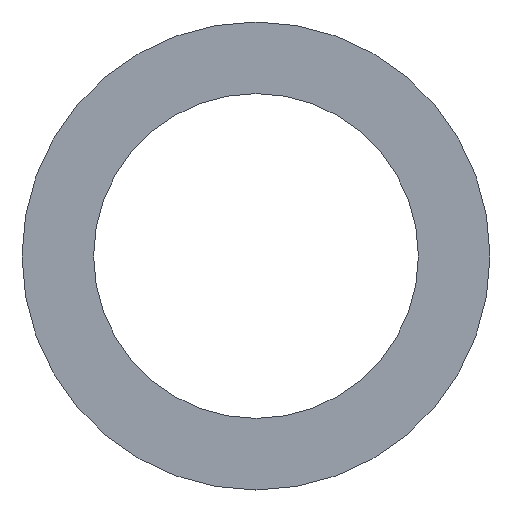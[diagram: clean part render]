
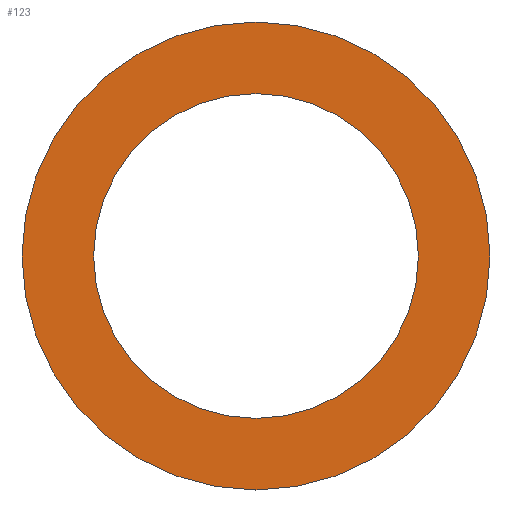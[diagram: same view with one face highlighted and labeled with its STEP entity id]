
A CAD part, front view. The second image highlights one B-rep face of the part: STEP entity #123.
In plain terms, the highlighted planar face has unit normal (0, -1, 0).
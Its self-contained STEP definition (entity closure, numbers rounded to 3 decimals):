
#39 = EDGE_CURVE('',#40,#40,#42,.T.);
#40 = VERTEX_POINT('',#41);
#41 = CARTESIAN_POINT('',(2.45,-13.2,0.));
#42 = SURFACE_CURVE('',#43,(#48,#60),.PCURVE_S1.);
#43 = CIRCLE('',#44,2.45);
#44 = AXIS2_PLACEMENT_3D('',#45,#46,#47);
#45 = CARTESIAN_POINT('',(0.,-13.2,0.));
#46 = DIRECTION('',(0.,-1.,0.));
#47 = DIRECTION('',(1.,0.,0.));
#48 = PCURVE('',#49,#54);
#49 = CYLINDRICAL_SURFACE('',#50,2.45);
#50 = AXIS2_PLACEMENT_3D('',#51,#52,#53);
#51 = CARTESIAN_POINT('',(0.,13.2,0.));
#52 = DIRECTION('',(0.,-1.,0.));
#53 = DIRECTION('',(1.,0.,0.));
#54 = DEFINITIONAL_REPRESENTATION('',(#55),#59);
#55 = LINE('',#56,#57);
#56 = CARTESIAN_POINT('',(0.,26.4));
#57 = VECTOR('',#58,1.);
#58 = DIRECTION('',(1.,0.));
#59 = ( GEOMETRIC_REPRESENTATION_CONTEXT(2) 
PARAMETRIC_REPRESENTATION_CONTEXT() REPRESENTATION_CONTEXT('2D SPACE',''
  ) );
#60 = PCURVE('',#61,#66);
#61 = PLANE('',#62);
#62 = AXIS2_PLACEMENT_3D('',#63,#64,#65);
#63 = CARTESIAN_POINT('',(0.,-13.2,0.));
#64 = DIRECTION('',(0.,-1.,0.));
#65 = DIRECTION('',(1.,0.,0.));
#66 = DEFINITIONAL_REPRESENTATION('',(#67),#71);
#67 = CIRCLE('',#68,2.45);
#68 = AXIS2_PLACEMENT_2D('',#69,#70);
#69 = CARTESIAN_POINT('',(0.,0.));
#70 = DIRECTION('',(1.,0.));
#71 = ( GEOMETRIC_REPRESENTATION_CONTEXT(2) 
PARAMETRIC_REPRESENTATION_CONTEXT() REPRESENTATION_CONTEXT('2D SPACE',''
  ) );
#123 = ADVANCED_FACE('',(#124,#127),#61,.T.);
#124 = FACE_BOUND('',#125,.T.);
#125 = EDGE_LOOP('',(#126));
#126 = ORIENTED_EDGE('',*,*,#39,.T.);
#127 = FACE_BOUND('',#128,.T.);
#128 = EDGE_LOOP('',(#129));
#129 = ORIENTED_EDGE('',*,*,#130,.F.);
#130 = EDGE_CURVE('',#131,#131,#133,.T.);
#131 = VERTEX_POINT('',#132);
#132 = CARTESIAN_POINT('',(1.7,-13.2,0.));
#133 = SURFACE_CURVE('',#134,(#139,#146),.PCURVE_S1.);
#134 = CIRCLE('',#135,1.7);
#135 = AXIS2_PLACEMENT_3D('',#136,#137,#138);
#136 = CARTESIAN_POINT('',(0.,-13.2,0.));
#137 = DIRECTION('',(0.,-1.,0.));
#138 = DIRECTION('',(1.,0.,0.));
#139 = PCURVE('',#61,#140);
#140 = DEFINITIONAL_REPRESENTATION('',(#141),#145);
#141 = CIRCLE('',#142,1.7);
#142 = AXIS2_PLACEMENT_2D('',#143,#144);
#143 = CARTESIAN_POINT('',(0.,0.));
#144 = DIRECTION('',(1.,0.));
#145 = ( GEOMETRIC_REPRESENTATION_CONTEXT(2) 
PARAMETRIC_REPRESENTATION_CONTEXT() REPRESENTATION_CONTEXT('2D SPACE',''
  ) );
#146 = PCURVE('',#147,#152);
#147 = CYLINDRICAL_SURFACE('',#148,1.7);
#148 = AXIS2_PLACEMENT_3D('',#149,#150,#151);
#149 = CARTESIAN_POINT('',(0.,14.5,0.));
#150 = DIRECTION('',(0.,-1.,0.));
#151 = DIRECTION('',(1.,0.,0.));
#152 = DEFINITIONAL_REPRESENTATION('',(#153),#157);
#153 = LINE('',#154,#155);
#154 = CARTESIAN_POINT('',(0.,27.7));
#155 = VECTOR('',#156,1.);
#156 = DIRECTION('',(1.,0.));
#157 = ( GEOMETRIC_REPRESENTATION_CONTEXT(2) 
PARAMETRIC_REPRESENTATION_CONTEXT() REPRESENTATION_CONTEXT('2D SPACE',''
  ) );
